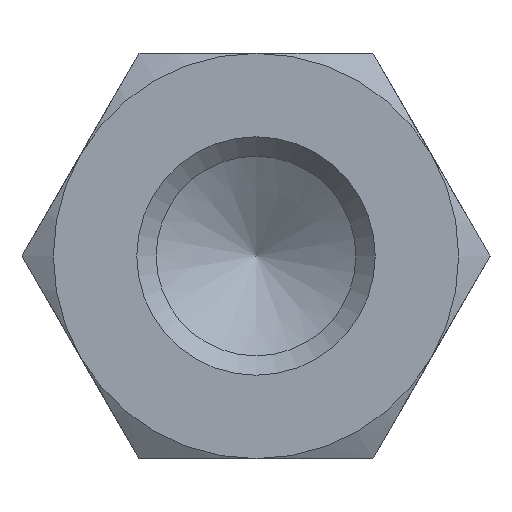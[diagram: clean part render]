
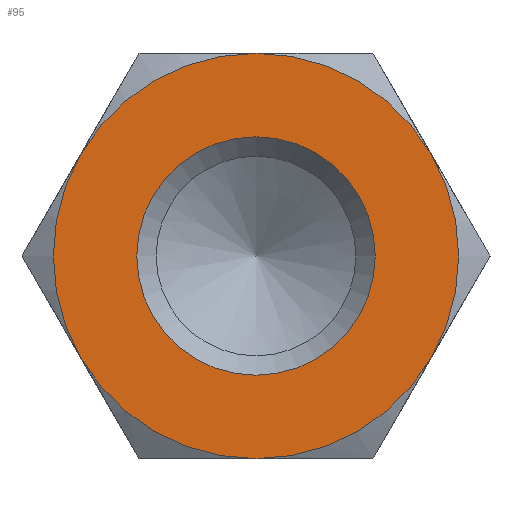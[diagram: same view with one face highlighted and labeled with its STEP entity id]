
A CAD part, left-side view. The second image highlights one B-rep face of the part: STEP entity #95.
In plain terms, the highlighted planar face has unit normal (-1, 0, 0).
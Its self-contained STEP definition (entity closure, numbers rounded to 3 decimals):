
#95 = ADVANCED_FACE( '', ( #147, #148 ), #149, .F. );
#147 = FACE_OUTER_BOUND( '', #206, .T. );
#148 = FACE_BOUND( '', #207, .T. );
#149 = PLANE( '', #208 );
#206 = EDGE_LOOP( '', ( #356, #357, #358, #359, #360, #361 ) );
#207 = EDGE_LOOP( '', ( #362 ) );
#208 = AXIS2_PLACEMENT_3D( '', #363, #364, #365 );
#356 = ORIENTED_EDGE( '', *, *, #440, .F. );
#357 = ORIENTED_EDGE( '', *, *, #425, .F. );
#358 = ORIENTED_EDGE( '', *, *, #441, .F. );
#359 = ORIENTED_EDGE( '', *, *, #437, .F. );
#360 = ORIENTED_EDGE( '', *, *, #442, .F. );
#361 = ORIENTED_EDGE( '', *, *, #443, .F. );
#362 = ORIENTED_EDGE( '', *, *, #439, .T. );
#363 = CARTESIAN_POINT( '', ( -100., 0., 0. ) );
#364 = DIRECTION( '', ( 1., 0., 0. ) );
#365 = DIRECTION( '', ( 0., 0., -1. ) );
#425 = EDGE_CURVE( '', #495, #493, #497, .T. );
#437 = EDGE_CURVE( '', #447, #506, #513, .T. );
#439 = EDGE_CURVE( '', #516, #516, #517, .T. );
#440 = EDGE_CURVE( '', #493, #486, #518, .T. );
#441 = EDGE_CURVE( '', #506, #495, #519, .T. );
#442 = EDGE_CURVE( '', #481, #447, #520, .T. );
#443 = EDGE_CURVE( '', #486, #481, #521, .T. );
#447 = VERTEX_POINT( '', #525 );
#481 = VERTEX_POINT( '', #607 );
#486 = VERTEX_POINT( '', #623 );
#493 = VERTEX_POINT( '', #650 );
#495 = VERTEX_POINT( '', #657 );
#497 = CIRCLE( '', #664, 8.5 );
#506 = VERTEX_POINT( '', #690 );
#513 = CIRCLE( '', #733, 8.5 );
#516 = VERTEX_POINT( '', #736 );
#517 = CIRCLE( '', #737, 5. );
#518 = CIRCLE( '', #738, 8.5 );
#519 = CIRCLE( '', #739, 8.5 );
#520 = CIRCLE( '', #740, 8.5 );
#521 = CIRCLE( '', #741, 8.5 );
#525 = CARTESIAN_POINT( '', ( -100., -7.361, 4.25 ) );
#607 = CARTESIAN_POINT( '', ( -100., 0., 8.5 ) );
#623 = CARTESIAN_POINT( '', ( -100., 7.361, 4.25 ) );
#650 = CARTESIAN_POINT( '', ( -100., 7.361, -4.25 ) );
#657 = CARTESIAN_POINT( '', ( -100., 0., -8.5 ) );
#664 = AXIS2_PLACEMENT_3D( '', #776, #777, #778 );
#690 = CARTESIAN_POINT( '', ( -100., -7.361, -4.25 ) );
#733 = AXIS2_PLACEMENT_3D( '', #781, #782, #783 );
#736 = CARTESIAN_POINT( '', ( -100., 0., -5. ) );
#737 = AXIS2_PLACEMENT_3D( '', #787, #788, #789 );
#738 = AXIS2_PLACEMENT_3D( '', #790, #791, #792 );
#739 = AXIS2_PLACEMENT_3D( '', #793, #794, #795 );
#740 = AXIS2_PLACEMENT_3D( '', #796, #797, #798 );
#741 = AXIS2_PLACEMENT_3D( '', #799, #800, #801 );
#776 = CARTESIAN_POINT( '', ( -100., 0., 0. ) );
#777 = DIRECTION( '', ( 1., 0., 0. ) );
#778 = DIRECTION( '', ( 0., 0., -1. ) );
#781 = CARTESIAN_POINT( '', ( -100., 0., 0. ) );
#782 = DIRECTION( '', ( 1., 0., 0. ) );
#783 = DIRECTION( '', ( 0., 0., -1. ) );
#787 = CARTESIAN_POINT( '', ( -100., 0., 0. ) );
#788 = DIRECTION( '', ( 1., 0., 0. ) );
#789 = DIRECTION( '', ( 0., 0., -1. ) );
#790 = CARTESIAN_POINT( '', ( -100., 0., 0. ) );
#791 = DIRECTION( '', ( 1., 0., 0. ) );
#792 = DIRECTION( '', ( 0., 0., -1. ) );
#793 = CARTESIAN_POINT( '', ( -100., 0., 0. ) );
#794 = DIRECTION( '', ( 1., 0., 0. ) );
#795 = DIRECTION( '', ( 0., 0., -1. ) );
#796 = CARTESIAN_POINT( '', ( -100., 0., 0. ) );
#797 = DIRECTION( '', ( 1., 0., 0. ) );
#798 = DIRECTION( '', ( 0., 0., -1. ) );
#799 = CARTESIAN_POINT( '', ( -100., 0., 0. ) );
#800 = DIRECTION( '', ( 1., 0., 0. ) );
#801 = DIRECTION( '', ( 0., 0., -1. ) );
